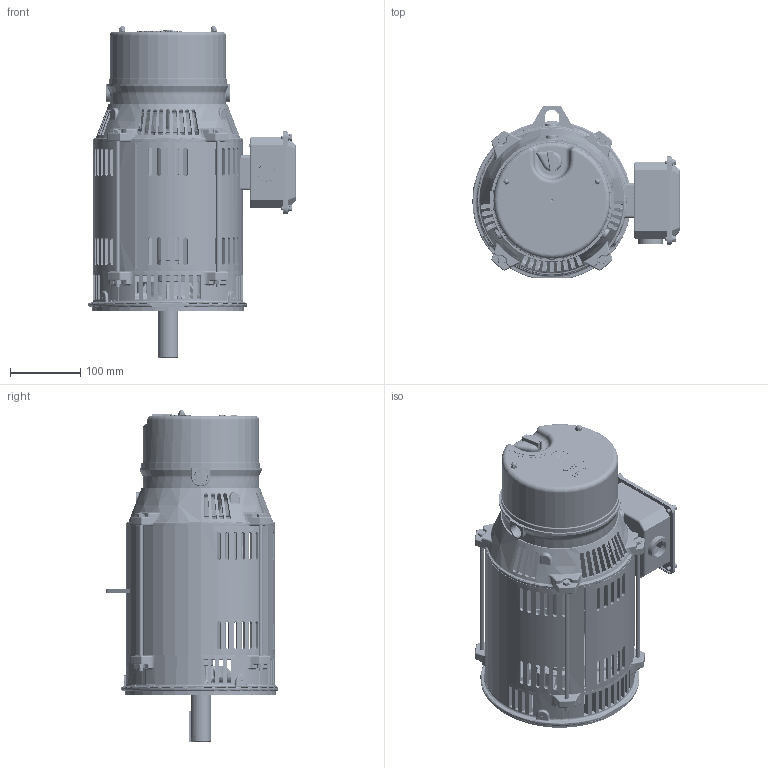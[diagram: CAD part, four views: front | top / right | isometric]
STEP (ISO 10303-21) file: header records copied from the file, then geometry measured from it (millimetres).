
FILE_DESCRIPTION (( 'STEP AP203' ), '1' );
FILE_NAME ('SS600255-100_RevC.STEP', '2021-06-25T11:19:58', ( '' ), ( '' ), 'SwSTEP 2.0', 'SolidWorks 2018', '' );
FILE_SCHEMA (( 'CONFIG_CONTROL_DESIGN' ));
Length unit declared in the file: inch
Products named in the file (1): SS600255-100_RevC
Bounding box: 295.7 x 246 x 473.6 mm (x, y, z)
Volume: 2315845.4 mm3; surface area: 1098958.6 mm2
Topology: 48 solids, 48 shells, 4507 faces, 11331 edges, 6860 vertices
Faces by surface type: cylinder 1354, plane 1176, bspline 975, torus 589, cone 306, sphere 107
Entity records: 185956 total; most frequent: CARTESIAN_POINT 85513, ORIENTED_EDGE 22332, DIRECTION 19398, EDGE_CURVE 11166, AXIS2_PLACEMENT_3D 7741, VERTEX_POINT 6839, EDGE_LOOP 4887, FACE_OUTER_BOUND 4507
